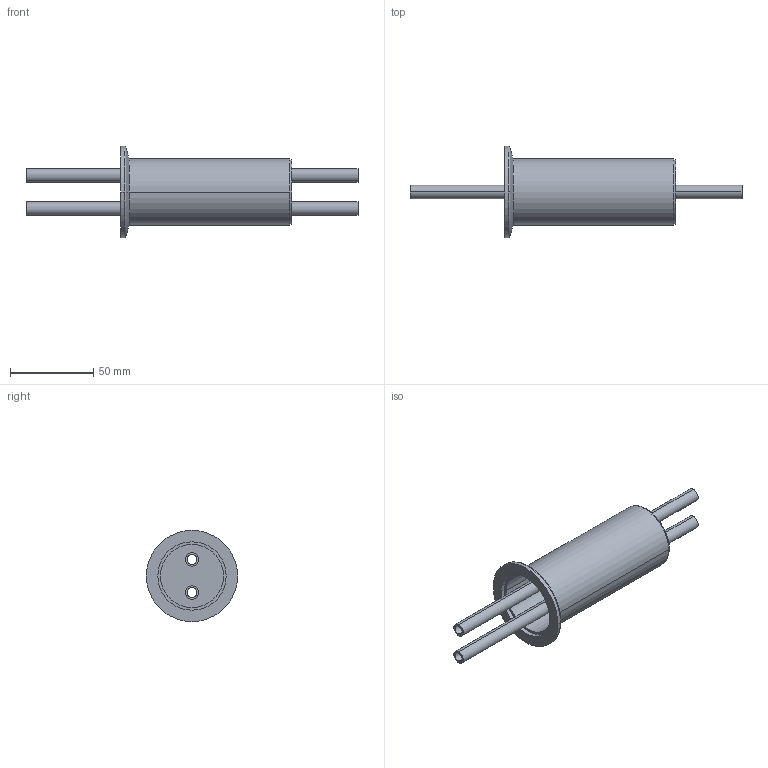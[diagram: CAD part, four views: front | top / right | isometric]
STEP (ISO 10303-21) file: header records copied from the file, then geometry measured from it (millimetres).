
FILE_DESCRIPTION((''),'2;1');
FILE_NAME('W:\214-101.stp','2004-01-23T12:51:20',('KAA'),(''),'Autodesk Inventor (R) 6.0','Autodesk Inventor (R) 6.0','');
FILE_SCHEMA(('CONFIG_CONTROL_DESIGN'));
Length unit declared in the file: millimetre
Products named in the file (1): 214-101
Bounding box: 200 x 55 x 55 mm (x, y, z)
Volume: 26298.9 mm3; surface area: 47195.5 mm2
Topology: 1 solids, 1 shells, 37 faces, 86 edges, 58 vertices
Faces by surface type: cylinder 22, plane 9, torus 2, cone 2, bspline 2
Entity records: 1281 total; most frequent: CARTESIAN_POINT 270, DIRECTION 220, ORIENTED_EDGE 172, AXIS2_PLACEMENT_3D 98, EDGE_CURVE 86, CIRCLE 62, VERTEX_POINT 58, EDGE_LOOP 48
